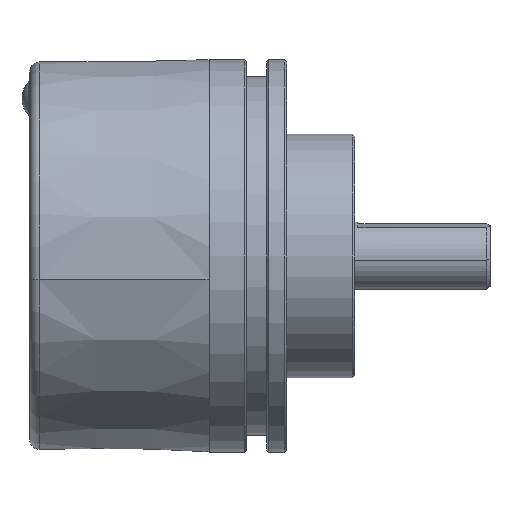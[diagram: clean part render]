
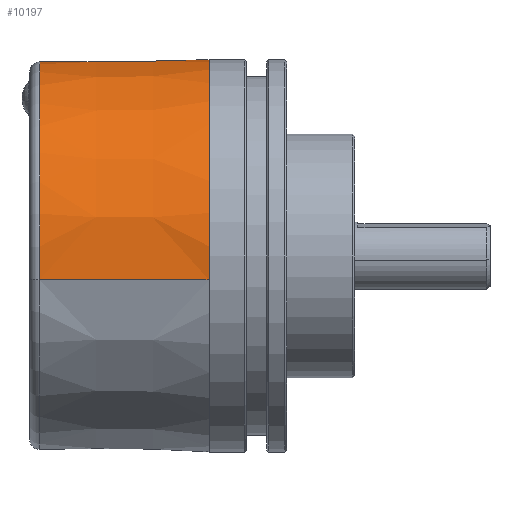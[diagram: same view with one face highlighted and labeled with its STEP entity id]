
A CAD part, front view. The second image highlights one B-rep face of the part: STEP entity #10197.
In plain terms, the highlighted conical face has half-angle 0.75 degrees and reference radius 29 mm.
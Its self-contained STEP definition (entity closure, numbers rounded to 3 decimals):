
#5951 = FACE_OUTER_BOUND ( 'NONE', #9653, .T. ) ;
#6002 = CARTESIAN_POINT ( 'NONE',  ( -17.52, -28.459, -3.494 ) ) ;
#6003 = CARTESIAN_POINT ( 'NONE',  ( -17.52, 21.923, 18.479 ) ) ;
#6004 = DIRECTION ( 'NONE',  ( 0., -0.993, -0.122 ) ) ;
#6005 = LINE ( 'NONE', #6143, #6142 ) ;
#6006 = CONICAL_SURFACE ( 'NONE', #6073, 29., 0.013 ) ;
#6073 = AXIS2_PLACEMENT_3D ( 'NONE', #6168, #6167, #6004 ) ;
#6098 = CARTESIAN_POINT ( 'NONE',  ( 7.5, 22.36, 18.467 ) ) ;
#6099 = CARTESIAN_POINT ( 'NONE',  ( -10.838, 22.04, 18.476 ) ) ;
#6100 = CARTESIAN_POINT ( 'NONE',  ( -7.498, 22.099, 18.474 ) ) ;
#6101 = CARTESIAN_POINT ( 'NONE',  ( -3.498, 22.169, 18.472 ) ) ;
#6102 = CARTESIAN_POINT ( 'NONE',  ( 0.501, 22.238, 18.47 ) ) ;
#6103 = CARTESIAN_POINT ( 'NONE',  ( 4.5, 22.308, 18.469 ) ) ;
#6104 = CARTESIAN_POINT ( 'NONE',  ( 5.5, 22.325, 18.468 ) ) ;
#6108 = DIRECTION ( 'NONE',  ( 0., 0.993, 0.122 ) ) ;
#6109 = DIRECTION ( 'NONE',  ( -1., 0., 0. ) ) ;
#6110 = CARTESIAN_POINT ( 'NONE',  ( 7.5, 0., 0. ) ) ;
#6111 = AXIS2_PLACEMENT_3D ( 'NONE', #6110, #6109, #6108 ) ;
#6112 = CIRCLE ( 'NONE', #6111, 29. ) ;
#6113 = CARTESIAN_POINT ( 'NONE',  ( 6.5, 22.343, 18.468 ) ) ;
#6114 = CARTESIAN_POINT ( 'NONE',  ( 7.5, 22.36, 18.467 ) ) ;
#6116 = B_SPLINE_CURVE_WITH_KNOTS ( 'NONE', 3,
 ( #6114, #6113, #6104, #6103, #6102, #6101, #6100, #6099, #6165, #6164 ),
 .UNSPECIFIED., .F., .F.,
 ( 4, 3, 3, 4 ),
 ( 0., 0.003, 0.015, 0.025 ),
 .UNSPECIFIED. ) ;
#6121 = DIRECTION ( 'NONE',  ( 0., 0.993, 0.122 ) ) ;
#6122 = DIRECTION ( 'NONE',  ( 1., 0., 0. ) ) ;
#6123 = CARTESIAN_POINT ( 'NONE',  ( -17.52, 0., 0. ) ) ;
#6124 = AXIS2_PLACEMENT_3D ( 'NONE', #6123, #6122, #6121 ) ;
#6125 = CIRCLE ( 'NONE', #6124, 28.672 ) ;
#6140 = CARTESIAN_POINT ( 'NONE',  ( 7.5, -28.784, -3.534 ) ) ;
#6141 = DIRECTION ( 'NONE',  ( 1., -0.013, -0.002 ) ) ;
#6142 = VECTOR ( 'NONE', #6141, 1000. ) ;
#6143 = CARTESIAN_POINT ( 'NONE',  ( 7.5, -28.784, -3.534 ) ) ;
#6164 = CARTESIAN_POINT ( 'NONE',  ( -17.52, 21.923, 18.479 ) ) ;
#6165 = CARTESIAN_POINT ( 'NONE',  ( -14.179, 21.982, 18.477 ) ) ;
#6167 = DIRECTION ( 'NONE',  ( 1., 0., 0. ) ) ;
#6168 = CARTESIAN_POINT ( 'NONE',  ( 7.5, 0., 0. ) ) ;
#9653 = EDGE_LOOP ( 'NONE', ( #10198, #10202, #10205, #10208 ) ) ;
#10197 = ADVANCED_FACE ( 'NONE', ( #5951 ), #6006, .T. ) ;
#10198 = ORIENTED_EDGE ( 'NONE', *, *, #10199, .T. ) ;
#10199 = EDGE_CURVE ( 'NONE', #10200, #10201, #6125, .T. ) ;
#10200 = VERTEX_POINT ( 'NONE', #6003 ) ;
#10201 = VERTEX_POINT ( 'NONE', #6002 ) ;
#10202 = ORIENTED_EDGE ( 'NONE', *, *, #10203, .T. ) ;
#10203 = EDGE_CURVE ( 'NONE', #10201, #10204, #6005, .T. ) ;
#10204 = VERTEX_POINT ( 'NONE', #6140 ) ;
#10205 = ORIENTED_EDGE ( 'NONE', *, *, #10206, .T. ) ;
#10206 = EDGE_CURVE ( 'NONE', #10204, #10207, #6112, .T. ) ;
#10207 = VERTEX_POINT ( 'NONE', #6098 ) ;
#10208 = ORIENTED_EDGE ( 'NONE', *, *, #10209, .T. ) ;
#10209 = EDGE_CURVE ( 'NONE', #10207, #10200, #6116, .T. ) ;
